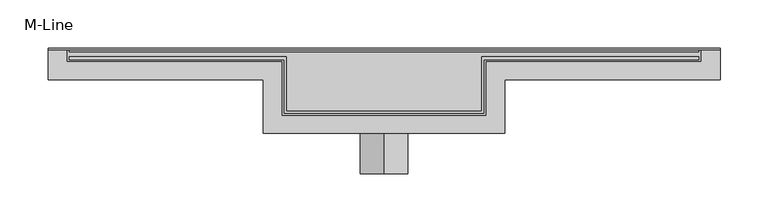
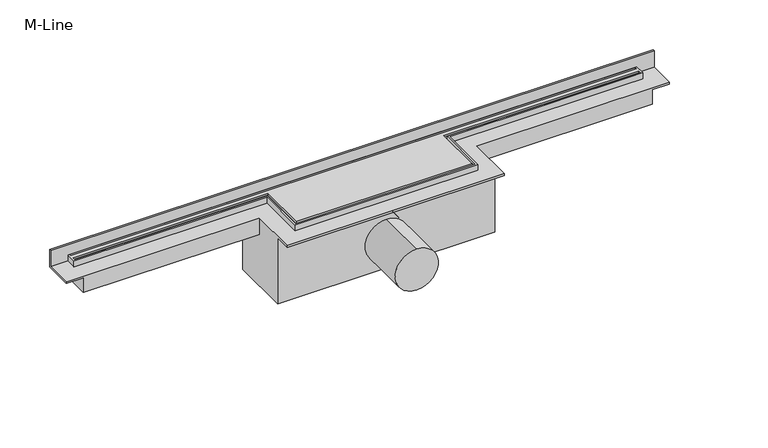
"""IFC4 building model written with IfcOpenShell, lengths in millimetres: sanitary terminal geometry, NLRS_PF_52_UN_M-Line_Easydrain : M-Line."""

from ifc_helpers import new_model, si_unit, point, frame, frame_2d, origin, place, context, project, spatial, circle_curve, trimmed, segment, composite_curve, outline, extrude, faceted_brep, source, transform, mapped, element, save


def m_line_9a3da5f7(model_context):
    return source(origin(), model_context, "Body", "SolidModel", [
        faceted_brep([(511.5, 35.0, 0.0), (-148.5, 35.0, 0.0), (-148.5, 21.0, 0.0), (75.5, 21.0, 0.0), (75.5, -35.0, 0.0), (287.5, -35.0, 0.0), (287.5, 21.0, 0.0), (511.5, 21.0, 0.0), (509.5, 23.0, 0.0), (285.5, 23.0, 0.0), (285.5, -33.0, 0.0), (77.5, -33.0, 0.0), (77.5, 23.0, 0.0), (-146.5, 23.0, 0.0), (-146.5, 26.0, 0.0), (79.5, 26.0, 0.0), (79.5, -31.0, 0.0), (283.5, -31.0, 0.0), (283.5, 26.0, 0.0), (509.5, 26.0, 0.0), (509.5, 33.0, 0.0), (509.5, 31.0, 0.0), (-146.5, 31.0, 0.0), (-146.5, 33.0, 0.0), (511.5, 35.0, -9.0), (511.5, 21.0, -9.0), (287.5, 21.0, -9.0), (287.5, -35.0, -9.0), (75.5, -35.0, -9.0), (75.5, 21.0, -9.0), (-148.5, 21.0, -9.0), (-148.5, 35.0, -9.0), (509.5, 33.0, -9.0), (-146.5, 33.0, -9.0), (-146.5, 23.0, -9.0), (77.5, 23.0, -9.0), (77.5, -33.0, -9.0), (285.5, -33.0, -9.0), (285.5, 23.0, -9.0), (509.5, 23.0, -9.0), (509.5, 26.0, -2.0), (509.5, 31.0, -2.0), (-146.5, 31.0, -2.0), (-146.5, 26.0, -2.0), (283.5, 26.0, -2.0), (283.5, -31.0, -2.0), (79.5, -31.0, -2.0), (79.5, 26.0, -2.0)], [[[0, 1, 2, 3, 4, 5, 6, 7], [8, 9, 10, 11, 12, 13, 14, 15, 16, 17, 18, 19], [20, 21, 22, 23]], [[24, 25, 26, 27, 28, 29, 30, 31], [32, 33, 34, 35, 36, 37, 38, 39]], [[1, 0, 24, 31]], [[31, 30, 2, 1]], [[3, 2, 30, 29]], [[4, 3, 29, 28]], [[5, 4, 28, 27]], [[6, 5, 27, 26]], [[7, 6, 26, 25]], [[25, 24, 0, 7]], [[32, 39, 8, 19, 40, 41, 21, 20]], [[9, 8, 39, 38]], [[10, 9, 38, 37]], [[11, 10, 37, 36]], [[12, 11, 36, 35]], [[13, 12, 35, 34]], [[34, 33, 23, 22, 42, 43, 14, 13]], [[20, 23, 33, 32]], [[44, 45, 46, 47, 43, 42, 41, 40]], [[16, 15, 47, 46]], [[17, 16, 46, 45]], [[18, 17, 45, 44]], [[18, 44, 40, 19]], [[22, 21, 41, 42]], [[47, 15, 14, 43]]]),
        faceted_brep([(531.5, 35.0, -9.0), (531.5, 2.0, -9.0), (511.5, 2.0, -9.0), (511.5, 21.0, -9.0), (511.5, 34.0, -9.0), (511.5, 35.0, -9.0), (307.5, -54.0, -9.0), (55.5, -54.0, -9.0), (55.5, -35.0, -9.0), (75.5, -35.0, -9.0), (287.5, -35.0, -9.0), (307.5, -35.0, -9.0), (-168.5, 2.0, -9.0), (-168.5, 35.0, -9.0), (-148.5, 35.0, -9.0), (-148.5, 34.0, -9.0), (-148.5, 21.0, -9.0), (-148.5, 2.0, -9.0), (-168.5, 2.0, -7.0), (-168.5, 33.0, -7.0), (-168.5, 33.0, 13.0), (-168.5, 35.0, 13.0), (307.5, -54.0, -7.0), (55.5, -54.0, -7.0), (531.5, 35.0, 13.0), (531.5, 33.0, 13.0), (531.5, 33.0, -7.0), (531.5, 2.0, -7.0), (307.5, 2.0, -7.0), (55.5, 2.0, -7.0), (307.5, -35.0, -90.0), (55.5, -35.0, -90.0), (55.5, 35.0, -90.0), (307.5, 35.0, -90.0), (55.5, 35.0, -27.0), (-148.5, 35.0, -27.0), (511.5, 35.0, -27.0), (307.5, 35.0, -27.0), (-148.5, 2.0, -27.0), (55.5, 2.0, -27.0), (307.5, 2.0, -27.0), (511.5, 2.0, -27.0)], [[[0, 1, 2, 3, 4, 5]], [[6, 7, 8, 9, 10, 11]], [[12, 13, 14, 15, 16, 17]], [[13, 12, 18, 19, 20, 21]], [[7, 6, 22, 23]], [[1, 0, 24, 25, 26, 27]], [[24, 21, 20, 25]], [[25, 20, 19, 26]], [[23, 22, 28, 27, 26, 19, 18, 29]], [[30, 31, 32, 33]], [[33, 32, 34, 35, 14, 13, 21, 24, 0, 5, 36, 37]], [[35, 38, 17, 16, 15, 14]], [[38, 39, 29, 18, 12, 17]], [[39, 34, 32, 31, 8, 7, 23, 29]], [[31, 30, 11, 10, 9, 8]], [[37, 40, 28, 22, 6, 11, 30, 33]], [[40, 41, 2, 1, 27, 28]], [[41, 36, 5, 4, 3, 2]], [[34, 39, 38, 35]], [[40, 37, 36, 41]]]),
        extrude(outline(composite_curve([segment(trimmed(circle_curve(frame_2d((-55.0, 181.5)), 25.0), [point((-30.0, 181.5))], [point((-80.0, 181.5))], False, "CARTESIAN"), True, "CONTINUOUS"), segment(trimmed(circle_curve(frame_2d((-55.0, 181.5)), 25.0), [point((-80.0, 181.5))], [point((-30.0, 181.5))], False, "CARTESIAN"), True, "CONTINUOUS")], self_intersect=False)), frame((0.0, -96.0, 0.0), z_axis=(0.0, 1.0, 0.0), x_axis=(0.0, 0.0, 1.0)), (0.0, 0.0, 1.0), 96.0),
    ])


if __name__ == "__main__":
    model = new_model("IFC4")
    model_context = context("Model", 3, world=origin())
    ifc_project = project(units=[si_unit("LENGTHUNIT", "METRE", prefix="MILLI")], contexts=[model_context])
    site = spatial("IfcSite", under=ifc_project)
    building = spatial("IfcBuilding", under=site)
    placement = place(None, origin())
    m_line_shape = m_line_9a3da5f7(model_context)
    element("IfcSanitaryTerminal", 1, ObjectType="NLRS_PF_52_UN_M-Line_Easydrain : M-Line", at=placement, inside=building, context=model_context, shape_type="MappedRepresentation", body=[
        mapped(m_line_shape, transform((0.0, 0.0, 0.0), x_axis=(1.0, 0.0, 0.0), y_axis=(0.0, 1.0, 0.0), z_axis=(0.0, 0.0, 1.0))),
    ])
    save(model, "model.ifc")
